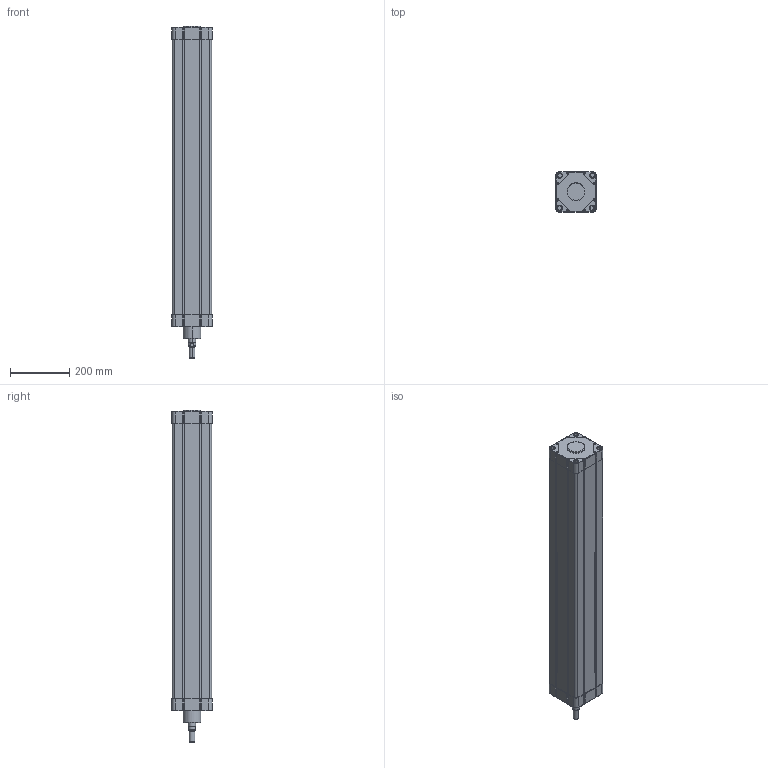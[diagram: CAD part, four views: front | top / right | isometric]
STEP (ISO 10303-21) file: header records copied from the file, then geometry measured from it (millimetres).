
FILE_DESCRIPTION((''),'2;1');
FILE_NAME('N11M21250850.stp','2010-01-07T00:10:47',('B. Petkovic 2010'),('AZ PNEUMATICA S.r.l.'),'Mechanical Desktop 2006','Mechanical Desktop 2006','Via Marco Biagi 6, I-20020 Misinto(MI) Italy, azpneu@tin.it');
FILE_SCHEMA(('CONFIG_CONTROL_DESIGN'));
Length unit declared in the file: millimetre
Products named in the file (2): N11M21000850; CILINDAR
Assembly tree (1 placements, depth 2):
  N11M21000850
    CILINDAR
Bounding box: 136 x 136 x 1120 mm (x, y, z)
Volume: 17462427.9 mm3; surface area: 697780.7 mm2
Topology: 1 solids, 1 shells, 686 faces, 1761 edges, 1120 vertices
Faces by surface type: cylinder 316, plane 290, torus 40, bspline 36, cone 4
Entity records: 22562 total; most frequent: CARTESIAN_POINT 5253, DIRECTION 3833, ORIENTED_EDGE 3522, EDGE_CURVE 1761, AXIS2_PLACEMENT_3D 1424, VERTEX_POINT 1120, VECTOR 985, LINE 985
